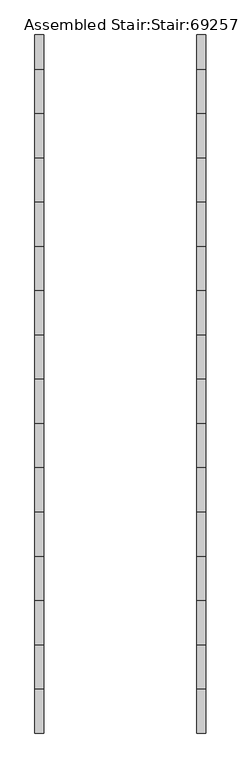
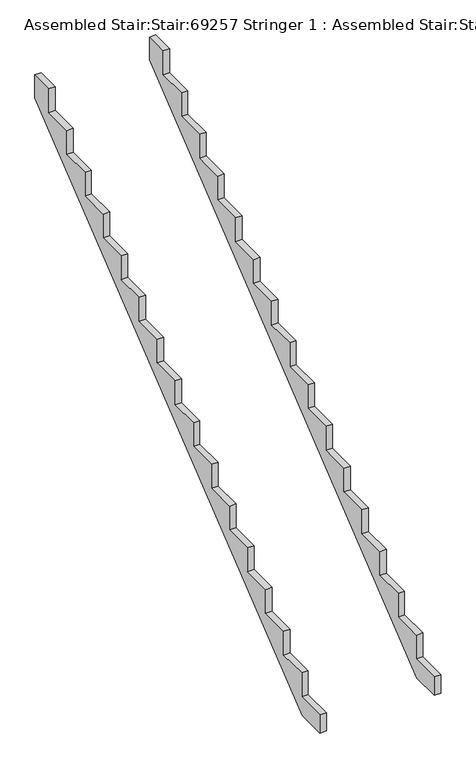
"""IFC4 building model written with IfcOpenShell, lengths in millimetres: stair geometry, Assembled Stair:Stair:69257 Stringer 1 : Assembled Stair:Stair:69257 Stringer 1."""

from ifc_helpers import new_model, si_unit, frame, origin, place, context, project, spatial, polyline, outline, extrude, source, transform, mapped, element, save


def assembled_stair_stair_69257_stringer_1_assembled_stair_stair_c2634700(model_context):
    return source(origin(), model_context, "Body", "SweptSolid", [
        extrude(outline(polyline([(-21974.6322236, 2783.5294118), (-21804.6322236, 2783.5294118), (-21804.6322236, 2615.2262417), (-25064.9476049, 0.0), (-25274.6322236, 0.0), (-25274.6322236, 136.4705882), (-25054.6322236, 136.4705882), (-25054.6322236, 312.9411765), (-24834.6322236, 312.9411765), (-24834.6322236, 489.4117647), (-24614.6322236, 489.4117647), (-24614.6322236, 665.8823529), (-24394.6322236, 665.8823529), (-24394.6322236, 842.3529412), (-24174.6322236, 842.3529412), (-24174.6322236, 1018.8235294), (-23954.6322236, 1018.8235294), (-23954.6322236, 1195.2941176), (-23734.6322236, 1195.2941176), (-23734.6322236, 1371.7647059), (-23514.6322236, 1371.7647059), (-23514.6322236, 1548.2352941), (-23294.6322236, 1548.2352941), (-23294.6322236, 1724.7058824), (-23074.6322236, 1724.7058824), (-23074.6322236, 1901.1764706), (-22854.6322236, 1901.1764706), (-22854.6322236, 2077.6470588), (-22634.6322236, 2077.6470588), (-22634.6322236, 2254.1176471), (-22414.6322236, 2254.1176471), (-22414.6322236, 2430.5882353), (-22194.6322236, 2430.5882353), (-22194.6322236, 2607.0588235), (-21974.6322236, 2607.0588235), (-21974.6322236, 2783.5294118)])), frame((22154.8089026, 0.0, 0.0), z_axis=(1.0, 0.0, 0.0), x_axis=(0.0, 1.0, 0.0)), (0.0, 0.0, 1.0), 45.0),
        extrude(outline(polyline([(-21974.6322236, 2783.5294118), (-21804.6322236, 2783.5294118), (-21804.6322236, 2615.2262417), (-25064.9476049, 0.0), (-25274.6322236, 0.0), (-25274.6322236, 136.4705882), (-25054.6322236, 136.4705882), (-25054.6322236, 312.9411765), (-24834.6322236, 312.9411765), (-24834.6322236, 489.4117647), (-24614.6322236, 489.4117647), (-24614.6322236, 665.8823529), (-24394.6322236, 665.8823529), (-24394.6322236, 842.3529412), (-24174.6322236, 842.3529412), (-24174.6322236, 1018.8235294), (-23954.6322236, 1018.8235294), (-23954.6322236, 1195.2941176), (-23734.6322236, 1195.2941176), (-23734.6322236, 1371.7647059), (-23514.6322236, 1371.7647059), (-23514.6322236, 1548.2352941), (-23294.6322236, 1548.2352941), (-23294.6322236, 1724.7058824), (-23074.6322236, 1724.7058824), (-23074.6322236, 1901.1764706), (-22854.6322236, 1901.1764706), (-22854.6322236, 2077.6470588), (-22634.6322236, 2077.6470588), (-22634.6322236, 2254.1176471), (-22414.6322236, 2254.1176471), (-22414.6322236, 2430.5882353), (-22194.6322236, 2430.5882353), (-22194.6322236, 2607.0588235), (-21974.6322236, 2607.0588235), (-21974.6322236, 2783.5294118)])), frame((21349.8089026, 0.0, 0.0), z_axis=(1.0, 0.0, 0.0), x_axis=(0.0, 1.0, 0.0)), (0.0, 0.0, 1.0), 45.0),
    ])


if __name__ == "__main__":
    model = new_model("IFC4")
    model_context = context("Model", 3, world=origin())
    ifc_project = project(units=[si_unit("LENGTHUNIT", "METRE", prefix="MILLI")], contexts=[model_context])
    site = spatial("IfcSite", under=ifc_project)
    building = spatial("IfcBuilding", under=site)
    placement = place(None, origin())
    assembled_stair_stair_69257_stringer_1_assembled_stair_stair_shape = assembled_stair_stair_69257_stringer_1_assembled_stair_stair_c2634700(model_context)
    element("IfcStair", 1, ObjectType="Assembled Stair:Stair:69257 Stringer 1 : Assembled Stair:Stair:69257 Stringer 1", at=placement, inside=building, context=model_context, shape_type="MappedRepresentation", body=[
        mapped(assembled_stair_stair_69257_stringer_1_assembled_stair_stair_shape, transform((0.0, 0.0, 0.0), x_axis=(1.0, 0.0, 0.0), y_axis=(0.0, 1.0, 0.0), z_axis=(0.0, 0.0, 1.0))),
    ])
    save(model, "model.ifc")
